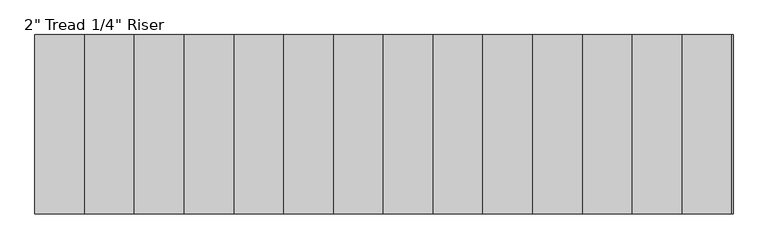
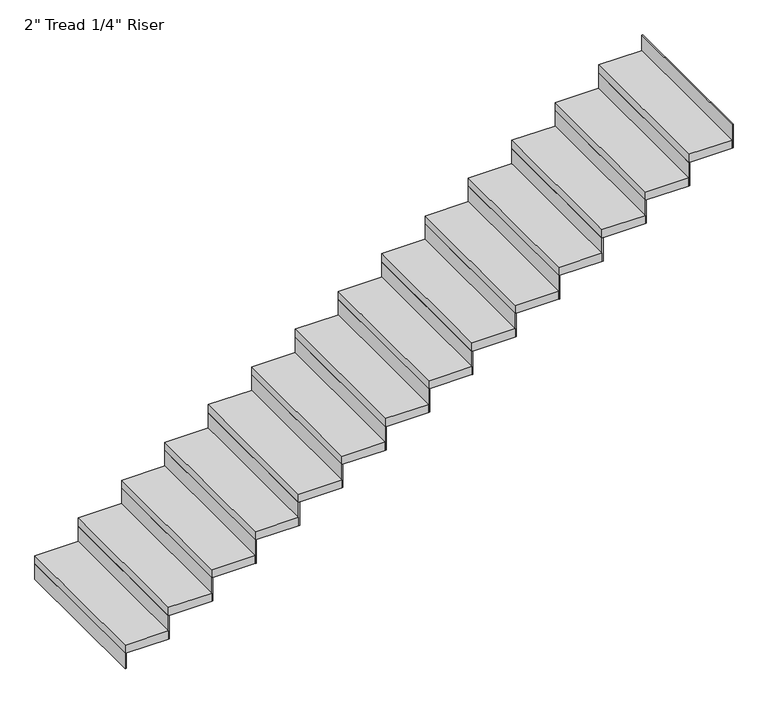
"""IFC4 building model written with IfcOpenShell, lengths in millimetres: stair flight geometry."""

from ifc_helpers import new_model, si_unit, frame, origin, origin_with_axes, place, context, project, spatial, polyline, outline, extrude, source, transform, mapped, element, save


def stair_flight_40b9fe5e(model_context):
    return source(origin(), model_context, "Body", "SweptSolid", [
        extrude(outline(polyline([(109152.4382982, 15846.0395941), (109146.0882982, 15846.0395941), (109146.0882982, 16760.4395941), (109152.4382982, 16760.4395941), (109152.4382982, 15846.0395941)])), origin_with_axes(), (0.0, 0.0, 1.0), 94.3428571),
        extrude(outline(polyline([(109400.0882982, 16760.4395941), (109400.0882982, 15846.0395941), (109146.0882982, 15846.0395941), (109146.0882982, 16760.4395941), (109400.0882982, 16760.4395941)])), frame((0.0, 0.0, 94.3428571), z_axis=(0.0, 0.0, 1.0), x_axis=(1.0, 0.0, 0.0)), (0.0, 0.0, 1.0), 50.8),
        extrude(outline(polyline([(109406.4382982, 15846.0395941), (109400.0882982, 15846.0395941), (109400.0882982, 16760.4395941), (109406.4382982, 16760.4395941), (109406.4382982, 15846.0395941)])), frame((0.0, 0.0, 94.3428571), z_axis=(0.0, 0.0, 1.0), x_axis=(1.0, 0.0, 0.0)), (0.0, 0.0, 1.0), 145.1428571),
        extrude(outline(polyline([(109654.0882982, 16760.4395941), (109654.0882982, 15846.0395941), (109400.0882982, 15846.0395941), (109400.0882982, 16760.4395941), (109654.0882982, 16760.4395941)])), frame((0.0, 0.0, 239.4857143), z_axis=(0.0, 0.0, 1.0), x_axis=(1.0, 0.0, 0.0)), (0.0, 0.0, 1.0), 50.8),
        extrude(outline(polyline([(109660.4382982, 15846.0395941), (109654.0882982, 15846.0395941), (109654.0882982, 16760.4395941), (109660.4382982, 16760.4395941), (109660.4382982, 15846.0395941)])), frame((0.0, 0.0, 239.4857143), z_axis=(0.0, 0.0, 1.0), x_axis=(1.0, 0.0, 0.0)), (0.0, 0.0, 1.0), 145.1428571),
        extrude(outline(polyline([(109908.0882982, 16760.4395941), (109908.0882982, 15846.0395941), (109654.0882982, 15846.0395941), (109654.0882982, 16760.4395941), (109908.0882982, 16760.4395941)])), frame((0.0, 0.0, 384.6285714), z_axis=(0.0, 0.0, 1.0), x_axis=(1.0, 0.0, 0.0)), (0.0, 0.0, 1.0), 50.8),
        extrude(outline(polyline([(109914.4382982, 15846.0395941), (109908.0882982, 15846.0395941), (109908.0882982, 16760.4395941), (109914.4382982, 16760.4395941), (109914.4382982, 15846.0395941)])), frame((0.0, 0.0, 384.6285714), z_axis=(0.0, 0.0, 1.0), x_axis=(1.0, 0.0, 0.0)), (0.0, 0.0, 1.0), 145.1428571),
        extrude(outline(polyline([(110162.0882982, 16760.4395941), (110162.0882982, 15846.0395941), (109908.0882982, 15846.0395941), (109908.0882982, 16760.4395941), (110162.0882982, 16760.4395941)])), frame((0.0, 0.0, 529.7714286), z_axis=(0.0, 0.0, 1.0), x_axis=(1.0, 0.0, 0.0)), (0.0, 0.0, 1.0), 50.8),
        extrude(outline(polyline([(110168.4382982, 15846.0395941), (110162.0882982, 15846.0395941), (110162.0882982, 16760.4395941), (110168.4382982, 16760.4395941), (110168.4382982, 15846.0395941)])), frame((0.0, 0.0, 529.7714286), z_axis=(0.0, 0.0, 1.0), x_axis=(1.0, 0.0, 0.0)), (0.0, 0.0, 1.0), 145.1428571),
        extrude(outline(polyline([(110416.0882982, 16760.4395941), (110416.0882982, 15846.0395941), (110162.0882982, 15846.0395941), (110162.0882982, 16760.4395941), (110416.0882982, 16760.4395941)])), frame((0.0, 0.0, 674.9142857), z_axis=(0.0, 0.0, 1.0), x_axis=(1.0, 0.0, 0.0)), (0.0, 0.0, 1.0), 50.8),
        extrude(outline(polyline([(110422.4382982, 15846.0395941), (110416.0882982, 15846.0395941), (110416.0882982, 16760.4395941), (110422.4382982, 16760.4395941), (110422.4382982, 15846.0395941)])), frame((0.0, 0.0, 674.9142857), z_axis=(0.0, 0.0, 1.0), x_axis=(1.0, 0.0, 0.0)), (0.0, 0.0, 1.0), 145.1428571),
        extrude(outline(polyline([(110670.0882982, 16760.4395941), (110670.0882982, 15846.0395941), (110416.0882982, 15846.0395941), (110416.0882982, 16760.4395941), (110670.0882982, 16760.4395941)])), frame((0.0, 0.0, 820.0571429), z_axis=(0.0, 0.0, 1.0), x_axis=(1.0, 0.0, 0.0)), (0.0, 0.0, 1.0), 50.8),
        extrude(outline(polyline([(110676.4382982, 15846.0395941), (110670.0882982, 15846.0395941), (110670.0882982, 16760.4395941), (110676.4382982, 16760.4395941), (110676.4382982, 15846.0395941)])), frame((0.0, 0.0, 820.0571429), z_axis=(0.0, 0.0, 1.0), x_axis=(1.0, 0.0, 0.0)), (0.0, 0.0, 1.0), 145.1428571),
        extrude(outline(polyline([(110924.0882982, 16760.4395941), (110924.0882982, 15846.0395941), (110670.0882982, 15846.0395941), (110670.0882982, 16760.4395941), (110924.0882982, 16760.4395941)])), frame((0.0, 0.0, 965.2), z_axis=(0.0, 0.0, 1.0), x_axis=(1.0, 0.0, 0.0)), (0.0, 0.0, 1.0), 50.8),
        extrude(outline(polyline([(110930.4382982, 15846.0395941), (110924.0882982, 15846.0395941), (110924.0882982, 16760.4395941), (110930.4382982, 16760.4395941), (110930.4382982, 15846.0395941)])), frame((0.0, 0.0, 965.2), z_axis=(0.0, 0.0, 1.0), x_axis=(1.0, 0.0, 0.0)), (0.0, 0.0, 1.0), 145.1428571),
        extrude(outline(polyline([(111178.0882982, 16760.4395941), (111178.0882982, 15846.0395941), (110924.0882982, 15846.0395941), (110924.0882982, 16760.4395941), (111178.0882982, 16760.4395941)])), frame((0.0, 0.0, 1110.3428571), z_axis=(0.0, 0.0, 1.0), x_axis=(1.0, 0.0, 0.0)), (0.0, 0.0, 1.0), 50.8),
        extrude(outline(polyline([(111184.4382982, 15846.0395941), (111178.0882982, 15846.0395941), (111178.0882982, 16760.4395941), (111184.4382982, 16760.4395941), (111184.4382982, 15846.0395941)])), frame((0.0, 0.0, 1110.3428571), z_axis=(0.0, 0.0, 1.0), x_axis=(1.0, 0.0, 0.0)), (0.0, 0.0, 1.0), 145.1428571),
        extrude(outline(polyline([(111432.0882982, 16760.4395941), (111432.0882982, 15846.0395941), (111178.0882982, 15846.0395941), (111178.0882982, 16760.4395941), (111432.0882982, 16760.4395941)])), frame((0.0, 0.0, 1255.4857143), z_axis=(0.0, 0.0, 1.0), x_axis=(1.0, 0.0, 0.0)), (0.0, 0.0, 1.0), 50.8),
        extrude(outline(polyline([(111438.4382982, 15846.0395941), (111432.0882982, 15846.0395941), (111432.0882982, 16760.4395941), (111438.4382982, 16760.4395941), (111438.4382982, 15846.0395941)])), frame((0.0, 0.0, 1255.4857143), z_axis=(0.0, 0.0, 1.0), x_axis=(1.0, 0.0, 0.0)), (0.0, 0.0, 1.0), 145.1428571),
        extrude(outline(polyline([(111686.0882982, 16760.4395941), (111686.0882982, 15846.0395941), (111432.0882982, 15846.0395941), (111432.0882982, 16760.4395941), (111686.0882982, 16760.4395941)])), frame((0.0, 0.0, 1400.6285714), z_axis=(0.0, 0.0, 1.0), x_axis=(1.0, 0.0, 0.0)), (0.0, 0.0, 1.0), 50.8),
        extrude(outline(polyline([(111692.4382982, 15846.0395941), (111686.0882982, 15846.0395941), (111686.0882982, 16760.4395941), (111692.4382982, 16760.4395941), (111692.4382982, 15846.0395941)])), frame((0.0, 0.0, 1400.6285714), z_axis=(0.0, 0.0, 1.0), x_axis=(1.0, 0.0, 0.0)), (0.0, 0.0, 1.0), 145.1428571),
        extrude(outline(polyline([(111940.0882982, 16760.4395941), (111940.0882982, 15846.0395941), (111686.0882982, 15846.0395941), (111686.0882982, 16760.4395941), (111940.0882982, 16760.4395941)])), frame((0.0, 0.0, 1545.7714286), z_axis=(0.0, 0.0, 1.0), x_axis=(1.0, 0.0, 0.0)), (0.0, 0.0, 1.0), 50.8),
        extrude(outline(polyline([(111946.4382982, 15846.0395941), (111940.0882982, 15846.0395941), (111940.0882982, 16760.4395941), (111946.4382982, 16760.4395941), (111946.4382982, 15846.0395941)])), frame((0.0, 0.0, 1545.7714286), z_axis=(0.0, 0.0, 1.0), x_axis=(1.0, 0.0, 0.0)), (0.0, 0.0, 1.0), 145.1428571),
        extrude(outline(polyline([(112194.0882982, 16760.4395941), (112194.0882982, 15846.0395941), (111940.0882982, 15846.0395941), (111940.0882982, 16760.4395941), (112194.0882982, 16760.4395941)])), frame((0.0, 0.0, 1690.9142857), z_axis=(0.0, 0.0, 1.0), x_axis=(1.0, 0.0, 0.0)), (0.0, 0.0, 1.0), 50.8),
        extrude(outline(polyline([(112200.4382982, 15846.0395941), (112194.0882982, 15846.0395941), (112194.0882982, 16760.4395941), (112200.4382982, 16760.4395941), (112200.4382982, 15846.0395941)])), frame((0.0, 0.0, 1690.9142857), z_axis=(0.0, 0.0, 1.0), x_axis=(1.0, 0.0, 0.0)), (0.0, 0.0, 1.0), 145.1428571),
        extrude(outline(polyline([(112448.0882982, 16760.4395941), (112448.0882982, 15846.0395941), (112194.0882982, 15846.0395941), (112194.0882982, 16760.4395941), (112448.0882982, 16760.4395941)])), frame((0.0, 0.0, 1836.0571429), z_axis=(0.0, 0.0, 1.0), x_axis=(1.0, 0.0, 0.0)), (0.0, 0.0, 1.0), 50.8),
        extrude(outline(polyline([(112454.4382982, 15846.0395941), (112448.0882982, 15846.0395941), (112448.0882982, 16760.4395941), (112454.4382982, 16760.4395941), (112454.4382982, 15846.0395941)])), frame((0.0, 0.0, 1836.0571429), z_axis=(0.0, 0.0, 1.0), x_axis=(1.0, 0.0, 0.0)), (0.0, 0.0, 1.0), 145.1428571),
        extrude(outline(polyline([(112708.4382982, 15846.0395941), (112702.0882982, 15846.0395941), (112702.0882982, 16760.4395941), (112708.4382982, 16760.4395941), (112708.4382982, 15846.0395941)])), frame((0.0, 0.0, 1981.2), z_axis=(0.0, 0.0, 1.0), x_axis=(1.0, 0.0, 0.0)), (0.0, 0.0, 1.0), 145.1428571),
        extrude(outline(polyline([(112702.0882982, 16760.4395941), (112702.0882982, 15846.0395941), (112448.0882982, 15846.0395941), (112448.0882982, 16760.4395941), (112702.0882982, 16760.4395941)])), frame((0.0, 0.0, 1981.2), z_axis=(0.0, 0.0, 1.0), x_axis=(1.0, 0.0, 0.0)), (0.0, 0.0, 1.0), 50.8),
    ])


if __name__ == "__main__":
    model = new_model("IFC4")
    model_context = context("Model", 3, world=origin())
    ifc_project = project(units=[si_unit("LENGTHUNIT", "METRE", prefix="MILLI")], contexts=[model_context])
    site = spatial("IfcSite", under=ifc_project)
    building = spatial("IfcBuilding", under=site)
    placement = place(None, origin())
    stair_flight_shape = stair_flight_40b9fe5e(model_context)
    element("IfcStairFlight", 1, ObjectType="2\" Tread 1/4\" Riser", at=placement, inside=building, context=model_context, shape_type="MappedRepresentation", body=[
        mapped(stair_flight_shape, transform((0.0, 0.0, 0.0), x_axis=(1.0, 0.0, 0.0), y_axis=(0.0, 1.0, 0.0), z_axis=(0.0, 0.0, 1.0))),
    ])
    save(model, "model.ifc")
